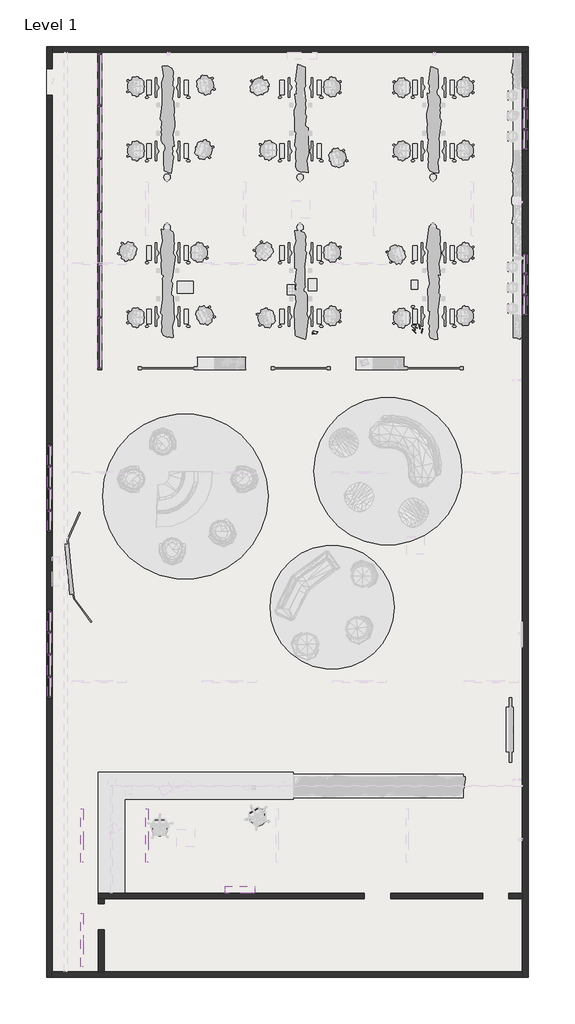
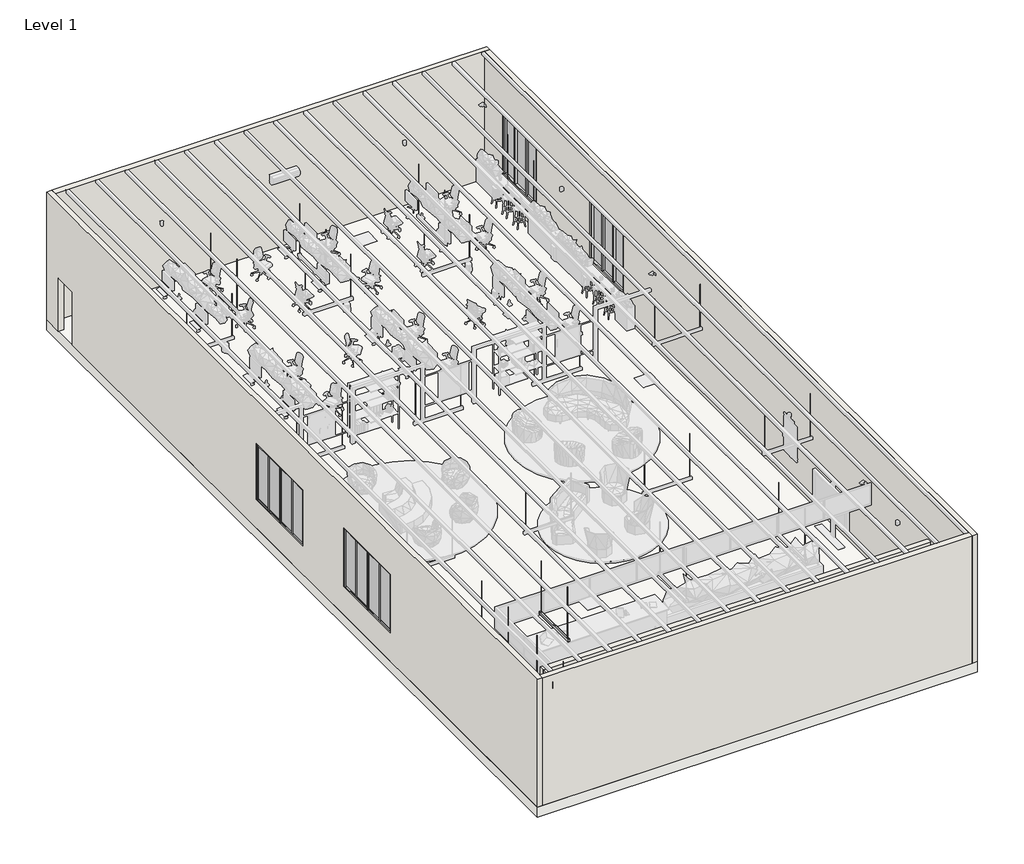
# One storey, part 1 of 6: 65 members, 20 plates, 6 walls, 3 light fixtures, 1 proxy, 1 slab.
"""IFC4 building model written with IfcOpenShell, lengths in millimetres."""

from ifc_helpers import new_model, si_unit, frame, origin, place, context, project, spatial, polyline, outline, extrude, faceted_brep, transform, mapped, element, save
from components import mechanical_equipment_e18acb15, standart_3_6d86efcd, rectangular_mullion_rectangular_mullion_1_0f371214, rectangular_mullion_rectangular_mullion_1_eee6716d, rectangular_mullion_rectangular_mullion_1_d6081a99, rectangular_mullion_rectangular_mullion_1_2bdda2b5, rectangular_mullion_rectangular_mullion_1_a7018825, rectangular_mullion_rectangular_mullion_1_fe8f51e2, rectangular_mullion_rectangular_mullion_1_6a789495, rectangular_mullion_rectangular_mullion_1_acf73c46, rectangular_mullion_rectangular_mullion_1_9f094a73, rectangular_mullion_rectangular_mullion_1_2d569b24, rectangular_mullion_rectangular_mullion_1_004a76be, rectangular_mullion_rectangular_mullion_1_152b513c, rectangular_mullion_rectangular_mullion_1_9e4c6207, rectangular_mullion_rectangular_mullion_1_387f0aec, system_panel_glazed_0b0d6c82, system_panel_glazed_bdd544dc, system_panel_glazed_18db6a70, system_panel_glazed_cfb73191, system_panel_glazed_58499ce8, system_panel_glazed_a8da4757, system_panel_glazed_10de8b75, system_panel_glazed_8957ec08, system_panel_glazed_698d3100, system_panel_glazed_1ffa120b

model = new_model("IFC4")

# Units and contexts
model_context = context("Model", 3, world=origin())
ifc_project = project(units=[si_unit("LENGTHUNIT", "METRE", prefix="MILLI")], contexts=[model_context])

# Site, building, storey
site = spatial("IfcSite", under=ifc_project)
building = spatial("IfcBuilding", under=site)
storey = spatial("IfcBuildingStorey", under=building, Name="Level 1", Elevation=0.0)

# Proxy
placement = place(None, origin())
mechanical_equipment_shape = mechanical_equipment_e18acb15(model_context)
element("IfcBuildingElementProxy", 1, Name="Fujitsu General_ASYG18LFCA : ASYG18LFCA", ObjectType="Fujitsu General_ASYG18LFCA : ASYG18LFCA", at=placement, inside=storey, context=model_context, shape_type="MappedRepresentation", body=[
    mapped(mechanical_equipment_shape, transform((15585.3362243, -12238.6644727, 2800.0), x_axis=(-1.0, 0.0, 0.0), y_axis=(0.0, 0.0, 1.0), z_axis=(0.0, 1.0, 0.0))),
])

# Light fixtures
standart_3_shape = standart_3_6d86efcd(model_context)
element("IfcLightFixture", 2, ObjectType="EAE_STL_DIRECT_INDIRECT_TK_62W : Standart 3", at=placement, inside=storey, context=model_context, shape_type="MappedRepresentation", body=[
    mapped(standart_3_shape, transform((12336.9310635, -9535.2791115, 5028.2842712), x_axis=(0.0, -1.0, 0.0), y_axis=(-1.0, 0.0, 0.0), z_axis=(0.0, 0.0, -1.0))),
])
element("IfcLightFixture", 3, ObjectType="EAE_STL_DIRECT_INDIRECT_TK_62W : Standart 3", at=placement, inside=storey, context=model_context, shape_type="MappedRepresentation", body=[
    mapped(standart_3_shape, transform((10136.9310635, -9535.2791115, 5028.2842712), x_axis=(0.0, -1.0, 0.0), y_axis=(-1.0, 0.0, 0.0), z_axis=(0.0, 0.0, -1.0))),
])
element("IfcLightFixture", 4, ObjectType="EAE_STL_DIRECT_INDIRECT_TK_62W : Standart 3", at=placement, inside=storey, context=model_context, shape_type="MappedRepresentation", body=[
    mapped(standart_3_shape, transform((10136.9310635, -13070.1644448, 5028.2842712), x_axis=(0.0, -1.0, 0.0), y_axis=(-1.0, 0.0, 0.0), z_axis=(0.0, 0.0, -1.0))),
])

# Members
rectangular_mullion_rectangular_mullion_1_shape = rectangular_mullion_rectangular_mullion_1_0f371214(model_context)
element("IfcMember", 5, ObjectType="Rectangular Mullion : Rectangular Mullion 1", at=placement, inside=storey, context=model_context, shape_type="MappedRepresentation", body=[
    mapped(rectangular_mullion_rectangular_mullion_1_shape, transform((10845.3362243, 16205.264194, 0.0), x_axis=(0.0, 1.0, 0.0), y_axis=(1.0, 0.0, 0.0), z_axis=(0.0, 0.0, -1.0))),
])
rectangular_mullion_rectangular_mullion_1_2_shape = rectangular_mullion_rectangular_mullion_1_eee6716d(model_context)
element("IfcMember", 6, ObjectType="Rectangular Mullion : Rectangular Mullion 1", at=placement, inside=storey, context=model_context, shape_type="MappedRepresentation", body=[
    mapped(rectangular_mullion_rectangular_mullion_1_2_shape, transform((10845.3362243, 14415.2641938, 0.0), x_axis=(0.0, 1.0, 0.0), y_axis=(1.0, 0.0, 0.0), z_axis=(0.0, 0.0, -1.0))),
])
element("IfcMember", 7, ObjectType="Rectangular Mullion : Rectangular Mullion 1", at=placement, inside=storey, context=model_context, shape_type="MappedRepresentation", body=[
    mapped(rectangular_mullion_rectangular_mullion_1_2_shape, transform((10845.3362243, 12625.2641939, 0.0), x_axis=(0.0, 1.0, 0.0), y_axis=(1.0, 0.0, 0.0), z_axis=(0.0, 0.0, -1.0))),
])
element("IfcMember", 8, ObjectType="Rectangular Mullion : Rectangular Mullion 1", at=placement, inside=storey, context=model_context, shape_type="MappedRepresentation", body=[
    mapped(rectangular_mullion_rectangular_mullion_1_2_shape, transform((10845.3362243, 10835.264194, 0.0), x_axis=(0.0, 1.0, 0.0), y_axis=(1.0, 0.0, 0.0), z_axis=(0.0, 0.0, -1.0))),
])
element("IfcMember", 9, ObjectType="Rectangular Mullion : Rectangular Mullion 1", at=placement, inside=storey, context=model_context, shape_type="MappedRepresentation", body=[
    mapped(rectangular_mullion_rectangular_mullion_1_2_shape, transform((10845.3362243, 9045.2641941, 0.0), x_axis=(0.0, 1.0, 0.0), y_axis=(1.0, 0.0, 0.0), z_axis=(0.0, 0.0, -1.0))),
])
element("IfcMember", 10, ObjectType="Rectangular Mullion : Rectangular Mullion 1", at=placement, inside=storey, context=model_context, shape_type="MappedRepresentation", body=[
    mapped(rectangular_mullion_rectangular_mullion_1_2_shape, transform((10845.3362243, 7255.2641942, 0.0), x_axis=(0.0, 1.0, 0.0), y_axis=(1.0, 0.0, 0.0), z_axis=(0.0, 0.0, -1.0))),
])
rectangular_mullion_rectangular_mullion_1_3_shape = rectangular_mullion_rectangular_mullion_1_d6081a99(model_context)
element("IfcMember", 11, ObjectType="Rectangular Mullion : Rectangular Mullion 1", at=placement, inside=storey, context=model_context, shape_type="MappedRepresentation", body=[
    mapped(rectangular_mullion_rectangular_mullion_1_3_shape, transform((10845.3362243, 7223.5141942, 2200.0), x_axis=(0.0, 0.0, 1.0), y_axis=(1.0, 0.0, 0.0), z_axis=(0.0, 1.0, 0.0))),
])
element("IfcMember", 12, ObjectType="Rectangular Mullion : Rectangular Mullion 1", at=placement, inside=storey, context=model_context, shape_type="MappedRepresentation", body=[
    mapped(rectangular_mullion_rectangular_mullion_1_3_shape, transform((10845.3362243, 16141.764194, 2200.0), x_axis=(0.0, 0.0, 1.0), y_axis=(1.0, 0.0, 0.0), z_axis=(0.0, 1.0, 0.0))),
])
element("IfcMember", 13, ObjectType="Rectangular Mullion : Rectangular Mullion 1", at=placement, inside=storey, context=model_context, shape_type="MappedRepresentation", body=[
    mapped(rectangular_mullion_rectangular_mullion_1_3_shape, transform((10845.3362243, 14447.0141938, 0.0), x_axis=(0.0, 0.0, -1.0), y_axis=(1.0, 0.0, 0.0), z_axis=(0.0, -1.0, 0.0))),
])
element("IfcMember", 14, ObjectType="Rectangular Mullion : Rectangular Mullion 1", at=placement, inside=storey, context=model_context, shape_type="MappedRepresentation", body=[
    mapped(rectangular_mullion_rectangular_mullion_1_3_shape, transform((10845.3362243, 5528.764194, 0.0), x_axis=(0.0, 0.0, -1.0), y_axis=(1.0, 0.0, 0.0), z_axis=(0.0, -1.0, 0.0))),
])
rectangular_mullion_rectangular_mullion_1_4_shape = rectangular_mullion_rectangular_mullion_1_2bdda2b5(model_context)
element("IfcMember", 15, ObjectType="Rectangular Mullion : Rectangular Mullion 1", at=placement, inside=storey, context=model_context, shape_type="MappedRepresentation", body=[
    mapped(rectangular_mullion_rectangular_mullion_1_4_shape, transform((10845.3362243, 14383.5141938, 2200.0), x_axis=(0.0, 0.0, 1.0), y_axis=(1.0, 0.0, 0.0), z_axis=(0.0, 1.0, 0.0))),
])
element("IfcMember", 16, ObjectType="Rectangular Mullion : Rectangular Mullion 1", at=placement, inside=storey, context=model_context, shape_type="MappedRepresentation", body=[
    mapped(rectangular_mullion_rectangular_mullion_1_4_shape, transform((10845.3362243, 12593.5141939, 2200.0), x_axis=(0.0, 0.0, 1.0), y_axis=(1.0, 0.0, 0.0), z_axis=(0.0, 1.0, 0.0))),
])
element("IfcMember", 17, ObjectType="Rectangular Mullion : Rectangular Mullion 1", at=placement, inside=storey, context=model_context, shape_type="MappedRepresentation", body=[
    mapped(rectangular_mullion_rectangular_mullion_1_4_shape, transform((10845.3362243, 10803.514194, 2200.0), x_axis=(0.0, 0.0, 1.0), y_axis=(1.0, 0.0, 0.0), z_axis=(0.0, 1.0, 0.0))),
])
element("IfcMember", 18, ObjectType="Rectangular Mullion : Rectangular Mullion 1", at=placement, inside=storey, context=model_context, shape_type="MappedRepresentation", body=[
    mapped(rectangular_mullion_rectangular_mullion_1_4_shape, transform((10845.3362243, 9013.5141941, 2200.0), x_axis=(0.0, 0.0, 1.0), y_axis=(1.0, 0.0, 0.0), z_axis=(0.0, 1.0, 0.0))),
])
element("IfcMember", 19, ObjectType="Rectangular Mullion : Rectangular Mullion 1", at=placement, inside=storey, context=model_context, shape_type="MappedRepresentation", body=[
    mapped(rectangular_mullion_rectangular_mullion_1_4_shape, transform((10845.3362243, 12657.0141939, 0.0), x_axis=(0.0, 0.0, -1.0), y_axis=(1.0, 0.0, 0.0), z_axis=(0.0, -1.0, 0.0))),
])
element("IfcMember", 20, ObjectType="Rectangular Mullion : Rectangular Mullion 1", at=placement, inside=storey, context=model_context, shape_type="MappedRepresentation", body=[
    mapped(rectangular_mullion_rectangular_mullion_1_4_shape, transform((10845.3362243, 10867.014194, 0.0), x_axis=(0.0, 0.0, -1.0), y_axis=(1.0, 0.0, 0.0), z_axis=(0.0, -1.0, 0.0))),
])
element("IfcMember", 21, ObjectType="Rectangular Mullion : Rectangular Mullion 1", at=placement, inside=storey, context=model_context, shape_type="MappedRepresentation", body=[
    mapped(rectangular_mullion_rectangular_mullion_1_4_shape, transform((10845.3362243, 9077.0141941, 0.0), x_axis=(0.0, 0.0, -1.0), y_axis=(1.0, 0.0, 0.0), z_axis=(0.0, -1.0, 0.0))),
])
element("IfcMember", 22, ObjectType="Rectangular Mullion : Rectangular Mullion 1", at=placement, inside=storey, context=model_context, shape_type="MappedRepresentation", body=[
    mapped(rectangular_mullion_rectangular_mullion_1_4_shape, transform((10845.3362243, 7287.0141942, 0.0), x_axis=(0.0, 0.0, -1.0), y_axis=(1.0, 0.0, 0.0), z_axis=(0.0, -1.0, 0.0))),
])
element("IfcMember", 23, ObjectType="Rectangular Mullion : Rectangular Mullion 1", at=placement, inside=storey, context=model_context, shape_type="MappedRepresentation", body=[
    mapped(rectangular_mullion_rectangular_mullion_1_shape, transform((10845.3362243, 5465.264194, 2200.0), x_axis=(0.0, -1.0, 0.0), y_axis=(1.0, 0.0, 0.0), z_axis=(0.0, 0.0, 1.0))),
])
rectangular_mullion_rectangular_mullion_1_5_shape = rectangular_mullion_rectangular_mullion_1_a7018825(model_context)
element("IfcMember", 24, ObjectType="Rectangular Mullion : Rectangular Mullion 1", at=placement, inside=storey, context=model_context, shape_type="MappedRepresentation", body=[
    mapped(rectangular_mullion_rectangular_mullion_1_5_shape, transform((25245.3362243, 12872.4213335, 900.0), x_axis=(0.0, -1.0, 0.0), y_axis=(-1.0, 0.0, 0.0), z_axis=(0.0, 0.0, -1.0))),
])
element("IfcMember", 25, ObjectType="Rectangular Mullion : Rectangular Mullion 1", at=placement, inside=storey, context=model_context, shape_type="MappedRepresentation", body=[
    mapped(rectangular_mullion_rectangular_mullion_1_5_shape, transform((25245.3362243, 15022.4213335, 3400.0), x_axis=(0.0, 1.0, 0.0), y_axis=(-1.0, 0.0, 0.0), z_axis=(0.0, 0.0, 1.0))),
])
rectangular_mullion_rectangular_mullion_1_6_shape = rectangular_mullion_rectangular_mullion_1_fe8f51e2(model_context)
element("IfcMember", 26, ObjectType="Rectangular Mullion : Rectangular Mullion 1", at=placement, inside=storey, context=model_context, shape_type="MappedRepresentation", body=[
    mapped(rectangular_mullion_rectangular_mullion_1_6_shape, transform((25245.3362243, 13589.0880003, 900.0), x_axis=(0.0, -1.0, 0.0), y_axis=(-1.0, 0.0, 0.0), z_axis=(0.0, 0.0, -1.0))),
])
element("IfcMember", 27, ObjectType="Rectangular Mullion : Rectangular Mullion 1", at=placement, inside=storey, context=model_context, shape_type="MappedRepresentation", body=[
    mapped(rectangular_mullion_rectangular_mullion_1_6_shape, transform((25245.3362243, 14305.7546667, 900.0), x_axis=(0.0, -1.0, 0.0), y_axis=(-1.0, 0.0, 0.0), z_axis=(0.0, 0.0, -1.0))),
])
rectangular_mullion_rectangular_mullion_1_7_shape = rectangular_mullion_rectangular_mullion_1_6a789495(model_context)
element("IfcMember", 28, ObjectType="Rectangular Mullion : Rectangular Mullion 1", at=placement, inside=storey, context=model_context, shape_type="MappedRepresentation", body=[
    mapped(rectangular_mullion_rectangular_mullion_1_7_shape, transform((25245.3362243, 8020.8380003, 3336.7403044), x_axis=(0.0, 0.0, 1.0), y_axis=(-1.0, 0.0, 0.0), z_axis=(0.0, -1.0, 0.0))),
])
element("IfcMember", 29, ObjectType="Rectangular Mullion : Rectangular Mullion 1", at=placement, inside=storey, context=model_context, shape_type="MappedRepresentation", body=[
    mapped(rectangular_mullion_rectangular_mullion_1_7_shape, transform((25245.3362243, 13620.8380003, 3400.0), x_axis=(0.0, 0.0, 1.0), y_axis=(-1.0, 0.0, 0.0), z_axis=(0.0, -1.0, 0.0))),
])
rectangular_mullion_rectangular_mullion_1_8_shape = rectangular_mullion_rectangular_mullion_1_acf73c46(model_context)
element("IfcMember", 30, ObjectType="Rectangular Mullion : Rectangular Mullion 1", at=placement, inside=storey, context=model_context, shape_type="MappedRepresentation", body=[
    mapped(rectangular_mullion_rectangular_mullion_1_8_shape, transform((25245.3362243, 8737.5046667, 3336.7403044), x_axis=(0.0, 0.0, 1.0), y_axis=(-1.0, 0.0, 0.0), z_axis=(0.0, -1.0, 0.0))),
])
element("IfcMember", 31, ObjectType="Rectangular Mullion : Rectangular Mullion 1", at=placement, inside=storey, context=model_context, shape_type="MappedRepresentation", body=[
    mapped(rectangular_mullion_rectangular_mullion_1_8_shape, transform((25245.3362243, 7335.9213335, 3336.7403044), x_axis=(0.0, 0.0, 1.0), y_axis=(-1.0, 0.0, 0.0), z_axis=(0.0, -1.0, 0.0))),
])
element("IfcMember", 32, ObjectType="Rectangular Mullion : Rectangular Mullion 1", at=placement, inside=storey, context=model_context, shape_type="MappedRepresentation", body=[
    mapped(rectangular_mullion_rectangular_mullion_1_8_shape, transform((25245.3362243, 14337.5046667, 3400.0), x_axis=(0.0, 0.0, 1.0), y_axis=(-1.0, 0.0, 0.0), z_axis=(0.0, -1.0, 0.0))),
])
element("IfcMember", 33, ObjectType="Rectangular Mullion : Rectangular Mullion 1", at=placement, inside=storey, context=model_context, shape_type="MappedRepresentation", body=[
    mapped(rectangular_mullion_rectangular_mullion_1_8_shape, transform((25245.3362243, 12935.9213335, 3400.0), x_axis=(0.0, 0.0, 1.0), y_axis=(-1.0, 0.0, 0.0), z_axis=(0.0, -1.0, 0.0))),
])
element("IfcMember", 34, ObjectType="Rectangular Mullion : Rectangular Mullion 1", at=placement, inside=storey, context=model_context, shape_type="MappedRepresentation", body=[
    mapped(rectangular_mullion_rectangular_mullion_1_8_shape, transform((25245.3362243, 7957.3380003, 900.0), x_axis=(0.0, 0.0, -1.0), y_axis=(-1.0, 0.0, 0.0), z_axis=(0.0, 1.0, 0.0))),
])
element("IfcMember", 35, ObjectType="Rectangular Mullion : Rectangular Mullion 1", at=placement, inside=storey, context=model_context, shape_type="MappedRepresentation", body=[
    mapped(rectangular_mullion_rectangular_mullion_1_8_shape, transform((25245.3362243, 9358.9213335, 900.0), x_axis=(0.0, 0.0, -1.0), y_axis=(-1.0, 0.0, 0.0), z_axis=(0.0, 1.0, 0.0))),
])
element("IfcMember", 36, ObjectType="Rectangular Mullion : Rectangular Mullion 1", at=placement, inside=storey, context=model_context, shape_type="MappedRepresentation", body=[
    mapped(rectangular_mullion_rectangular_mullion_1_8_shape, transform((25245.3362243, 13557.3380003, 900.0), x_axis=(0.0, 0.0, -1.0), y_axis=(-1.0, 0.0, 0.0), z_axis=(0.0, 1.0, 0.0))),
])
element("IfcMember", 37, ObjectType="Rectangular Mullion : Rectangular Mullion 1", at=placement, inside=storey, context=model_context, shape_type="MappedRepresentation", body=[
    mapped(rectangular_mullion_rectangular_mullion_1_8_shape, transform((25245.3362243, 14958.9213335, 900.0), x_axis=(0.0, 0.0, -1.0), y_axis=(-1.0, 0.0, 0.0), z_axis=(0.0, 1.0, 0.0))),
])
element("IfcMember", 38, ObjectType="Rectangular Mullion : Rectangular Mullion 1", at=placement, inside=storey, context=model_context, shape_type="MappedRepresentation", body=[
    mapped(rectangular_mullion_rectangular_mullion_1_7_shape, transform((25245.3362243, 8674.0046667, 900.0), x_axis=(0.0, 0.0, -1.0), y_axis=(-1.0, 0.0, 0.0), z_axis=(0.0, 1.0, 0.0))),
])
element("IfcMember", 39, ObjectType="Rectangular Mullion : Rectangular Mullion 1", at=placement, inside=storey, context=model_context, shape_type="MappedRepresentation", body=[
    mapped(rectangular_mullion_rectangular_mullion_1_7_shape, transform((25245.3362243, 14274.0046667, 900.0), x_axis=(0.0, 0.0, -1.0), y_axis=(-1.0, 0.0, 0.0), z_axis=(0.0, 1.0, 0.0))),
])
rectangular_mullion_rectangular_mullion_1_9_shape = rectangular_mullion_rectangular_mullion_1_9f094a73(model_context)
element("IfcMember", 40, ObjectType="Rectangular Mullion : Rectangular Mullion 1", at=placement, inside=storey, context=model_context, shape_type="MappedRepresentation", body=[
    mapped(rectangular_mullion_rectangular_mullion_1_9_shape, transform((25245.3362243, 8705.7546667, 900.0), x_axis=(0.0, -1.0, 0.0), y_axis=(-1.0, 0.0, 0.0), z_axis=(0.0, 0.0, -1.0))),
])
element("IfcMember", 41, ObjectType="Rectangular Mullion : Rectangular Mullion 1", at=placement, inside=storey, context=model_context, shape_type="MappedRepresentation", body=[
    mapped(rectangular_mullion_rectangular_mullion_1_9_shape, transform((25245.3362243, 7989.0880003, 900.0), x_axis=(0.0, -1.0, 0.0), y_axis=(-1.0, 0.0, 0.0), z_axis=(0.0, 0.0, -1.0))),
])
rectangular_mullion_rectangular_mullion_1_10_shape = rectangular_mullion_rectangular_mullion_1_2d569b24(model_context)
element("IfcMember", 42, ObjectType="Rectangular Mullion : Rectangular Mullion 1", at=placement, inside=storey, context=model_context, shape_type="MappedRepresentation", body=[
    mapped(rectangular_mullion_rectangular_mullion_1_10_shape, transform((25245.3362243, 7272.4213335, 900.0), x_axis=(0.0, -1.0, 0.0), y_axis=(-1.0, 0.0, 0.0), z_axis=(0.0, 0.0, -1.0))),
])
element("IfcMember", 43, ObjectType="Rectangular Mullion : Rectangular Mullion 1", at=placement, inside=storey, context=model_context, shape_type="MappedRepresentation", body=[
    mapped(rectangular_mullion_rectangular_mullion_1_10_shape, transform((25245.3362243, 9422.4213335, 3336.7403044), x_axis=(0.0, 1.0, 0.0), y_axis=(-1.0, 0.0, 0.0), z_axis=(0.0, 0.0, 1.0))),
])
rectangular_mullion_rectangular_mullion_1_11_shape = rectangular_mullion_rectangular_mullion_1_004a76be(model_context)
element("IfcMember", 44, ObjectType="Rectangular Mullion : Rectangular Mullion 1", at=placement, inside=storey, context=model_context, shape_type="MappedRepresentation", body=[
    mapped(rectangular_mullion_rectangular_mullion_1_11_shape, transform((9145.3362243, 747.0141941, 3300.0), x_axis=(0.0, 0.0, 1.0), y_axis=(-1.0, 0.0, 0.0), z_axis=(0.0, -1.0, 0.0))),
])
element("IfcMember", 45, ObjectType="Rectangular Mullion : Rectangular Mullion 1", at=placement, inside=storey, context=model_context, shape_type="MappedRepresentation", body=[
    mapped(rectangular_mullion_rectangular_mullion_1_11_shape, transform((9145.3362243, 1497.014194, 3300.0), x_axis=(0.0, 0.0, 1.0), y_axis=(-1.0, 0.0, 0.0), z_axis=(0.0, -1.0, 0.0))),
])
element("IfcMember", 46, ObjectType="Rectangular Mullion : Rectangular Mullion 1", at=placement, inside=storey, context=model_context, shape_type="MappedRepresentation", body=[
    mapped(rectangular_mullion_rectangular_mullion_1_11_shape, transform((9145.3362243, -4869.6061392, 3400.0), x_axis=(0.0, 0.0, 1.0), y_axis=(-1.0, 0.0, 0.0), z_axis=(0.0, -1.0, 0.0))),
])
element("IfcMember", 47, ObjectType="Rectangular Mullion : Rectangular Mullion 1", at=placement, inside=storey, context=model_context, shape_type="MappedRepresentation", body=[
    mapped(rectangular_mullion_rectangular_mullion_1_11_shape, transform((9145.3362243, -4119.6061394, 3400.0), x_axis=(0.0, 0.0, 1.0), y_axis=(-1.0, 0.0, 0.0), z_axis=(0.0, -1.0, 0.0))),
])
rectangular_mullion_rectangular_mullion_1_12_shape = rectangular_mullion_rectangular_mullion_1_152b513c(model_context)
element("IfcMember", 48, ObjectType="Rectangular Mullion : Rectangular Mullion 1", at=placement, inside=storey, context=model_context, shape_type="MappedRepresentation", body=[
    mapped(rectangular_mullion_rectangular_mullion_1_12_shape, transform((9145.3362243, 2247.0141938, 3300.0), x_axis=(0.0, 0.0, 1.0), y_axis=(-1.0, 0.0, 0.0), z_axis=(0.0, -1.0, 0.0))),
])
element("IfcMember", 49, ObjectType="Rectangular Mullion : Rectangular Mullion 1", at=placement, inside=storey, context=model_context, shape_type="MappedRepresentation", body=[
    mapped(rectangular_mullion_rectangular_mullion_1_12_shape, transform((9145.3362243, 28.764194, 3300.0), x_axis=(0.0, 0.0, 1.0), y_axis=(-1.0, 0.0, 0.0), z_axis=(0.0, -1.0, 0.0))),
])
element("IfcMember", 50, ObjectType="Rectangular Mullion : Rectangular Mullion 1", at=placement, inside=storey, context=model_context, shape_type="MappedRepresentation", body=[
    mapped(rectangular_mullion_rectangular_mullion_1_12_shape, transform((9145.3362243, -3369.6061395, 3400.0), x_axis=(0.0, 0.0, 1.0), y_axis=(-1.0, 0.0, 0.0), z_axis=(0.0, -1.0, 0.0))),
])
element("IfcMember", 51, ObjectType="Rectangular Mullion : Rectangular Mullion 1", at=placement, inside=storey, context=model_context, shape_type="MappedRepresentation", body=[
    mapped(rectangular_mullion_rectangular_mullion_1_12_shape, transform((9145.3362243, -5587.8561394, 3400.0), x_axis=(0.0, 0.0, 1.0), y_axis=(-1.0, 0.0, 0.0), z_axis=(0.0, -1.0, 0.0))),
])
rectangular_mullion_rectangular_mullion_1_13_shape = rectangular_mullion_rectangular_mullion_1_9e4c6207(model_context)
element("IfcMember", 52, ObjectType="Rectangular Mullion : Rectangular Mullion 1", at=placement, inside=storey, context=model_context, shape_type="MappedRepresentation", body=[
    mapped(rectangular_mullion_rectangular_mullion_1_13_shape, transform((9145.3362243, -3401.3561395, 1100.0), x_axis=(0.0, -1.0, 0.0), y_axis=(-1.0, 0.0, 0.0), z_axis=(0.0, 0.0, -1.0))),
])
element("IfcMember", 53, ObjectType="Rectangular Mullion : Rectangular Mullion 1", at=placement, inside=storey, context=model_context, shape_type="MappedRepresentation", body=[
    mapped(rectangular_mullion_rectangular_mullion_1_13_shape, transform((9145.3362243, -4151.3561394, 1100.0), x_axis=(0.0, -1.0, 0.0), y_axis=(-1.0, 0.0, 0.0), z_axis=(0.0, 0.0, -1.0))),
])
element("IfcMember", 54, ObjectType="Rectangular Mullion : Rectangular Mullion 1", at=placement, inside=storey, context=model_context, shape_type="MappedRepresentation", body=[
    mapped(rectangular_mullion_rectangular_mullion_1_13_shape, transform((9145.3362243, -4901.3561392, 1100.0), x_axis=(0.0, -1.0, 0.0), y_axis=(-1.0, 0.0, 0.0), z_axis=(0.0, 0.0, -1.0))),
])
element("IfcMember", 55, ObjectType="Rectangular Mullion : Rectangular Mullion 1", at=placement, inside=storey, context=model_context, shape_type="MappedRepresentation", body=[
    mapped(rectangular_mullion_rectangular_mullion_1_12_shape, transform((9145.3362243, 683.5141941, 1100.0), x_axis=(0.0, 0.0, -1.0), y_axis=(-1.0, 0.0, 0.0), z_axis=(0.0, 1.0, 0.0))),
])
element("IfcMember", 56, ObjectType="Rectangular Mullion : Rectangular Mullion 1", at=placement, inside=storey, context=model_context, shape_type="MappedRepresentation", body=[
    mapped(rectangular_mullion_rectangular_mullion_1_12_shape, transform((9145.3362243, 2901.764194, 1100.0), x_axis=(0.0, 0.0, -1.0), y_axis=(-1.0, 0.0, 0.0), z_axis=(0.0, 1.0, 0.0))),
])
element("IfcMember", 57, ObjectType="Rectangular Mullion : Rectangular Mullion 1", at=placement, inside=storey, context=model_context, shape_type="MappedRepresentation", body=[
    mapped(rectangular_mullion_rectangular_mullion_1_12_shape, transform((9145.3362243, -4933.1061392, 1100.0), x_axis=(0.0, 0.0, -1.0), y_axis=(-1.0, 0.0, 0.0), z_axis=(0.0, 1.0, 0.0))),
])
element("IfcMember", 58, ObjectType="Rectangular Mullion : Rectangular Mullion 1", at=placement, inside=storey, context=model_context, shape_type="MappedRepresentation", body=[
    mapped(rectangular_mullion_rectangular_mullion_1_12_shape, transform((9145.3362243, -2714.8561394, 1100.0), x_axis=(0.0, 0.0, -1.0), y_axis=(-1.0, 0.0, 0.0), z_axis=(0.0, 1.0, 0.0))),
])
element("IfcMember", 59, ObjectType="Rectangular Mullion : Rectangular Mullion 1", at=placement, inside=storey, context=model_context, shape_type="MappedRepresentation", body=[
    mapped(rectangular_mullion_rectangular_mullion_1_11_shape, transform((9145.3362243, 1433.514194, 1100.0), x_axis=(0.0, 0.0, -1.0), y_axis=(-1.0, 0.0, 0.0), z_axis=(0.0, 1.0, 0.0))),
])
element("IfcMember", 60, ObjectType="Rectangular Mullion : Rectangular Mullion 1", at=placement, inside=storey, context=model_context, shape_type="MappedRepresentation", body=[
    mapped(rectangular_mullion_rectangular_mullion_1_11_shape, transform((9145.3362243, 2183.5141938, 1100.0), x_axis=(0.0, 0.0, -1.0), y_axis=(-1.0, 0.0, 0.0), z_axis=(0.0, 1.0, 0.0))),
])
element("IfcMember", 61, ObjectType="Rectangular Mullion : Rectangular Mullion 1", at=placement, inside=storey, context=model_context, shape_type="MappedRepresentation", body=[
    mapped(rectangular_mullion_rectangular_mullion_1_11_shape, transform((9145.3362243, -4183.1061394, 1100.0), x_axis=(0.0, 0.0, -1.0), y_axis=(-1.0, 0.0, 0.0), z_axis=(0.0, 1.0, 0.0))),
])
element("IfcMember", 62, ObjectType="Rectangular Mullion : Rectangular Mullion 1", at=placement, inside=storey, context=model_context, shape_type="MappedRepresentation", body=[
    mapped(rectangular_mullion_rectangular_mullion_1_11_shape, transform((9145.3362243, -3433.1061395, 1100.0), x_axis=(0.0, 0.0, -1.0), y_axis=(-1.0, 0.0, 0.0), z_axis=(0.0, 1.0, 0.0))),
])
rectangular_mullion_rectangular_mullion_1_14_shape = rectangular_mullion_rectangular_mullion_1_387f0aec(model_context)
element("IfcMember", 63, ObjectType="Rectangular Mullion : Rectangular Mullion 1", at=placement, inside=storey, context=model_context, shape_type="MappedRepresentation", body=[
    mapped(rectangular_mullion_rectangular_mullion_1_14_shape, transform((9145.3362243, -2651.3561394, 3400.0), x_axis=(0.0, 1.0, 0.0), y_axis=(-1.0, 0.0, 0.0), z_axis=(0.0, 0.0, 1.0))),
])
element("IfcMember", 64, ObjectType="Rectangular Mullion : Rectangular Mullion 1", at=placement, inside=storey, context=model_context, shape_type="MappedRepresentation", body=[
    mapped(rectangular_mullion_rectangular_mullion_1_14_shape, transform((9145.3362243, -5651.3561394, 1100.0), x_axis=(0.0, -1.0, 0.0), y_axis=(-1.0, 0.0, 0.0), z_axis=(0.0, 0.0, -1.0))),
])
element("IfcMember", 65, ObjectType="Rectangular Mullion : Rectangular Mullion 1", at=placement, inside=storey, context=model_context, shape_type="MappedRepresentation", body=[
    mapped(rectangular_mullion_rectangular_mullion_1_2_shape, transform((9145.3362243, 715.2641941, 1100.0), x_axis=(0.0, -1.0, 0.0), y_axis=(-1.0, 0.0, 0.0), z_axis=(0.0, 0.0, -1.0))),
])
element("IfcMember", 66, ObjectType="Rectangular Mullion : Rectangular Mullion 1", at=placement, inside=storey, context=model_context, shape_type="MappedRepresentation", body=[
    mapped(rectangular_mullion_rectangular_mullion_1_2_shape, transform((9145.3362243, 1465.264194, 1100.0), x_axis=(0.0, -1.0, 0.0), y_axis=(-1.0, 0.0, 0.0), z_axis=(0.0, 0.0, -1.0))),
])
element("IfcMember", 67, ObjectType="Rectangular Mullion : Rectangular Mullion 1", at=placement, inside=storey, context=model_context, shape_type="MappedRepresentation", body=[
    mapped(rectangular_mullion_rectangular_mullion_1_2_shape, transform((9145.3362243, 2215.2641938, 1100.0), x_axis=(0.0, -1.0, 0.0), y_axis=(-1.0, 0.0, 0.0), z_axis=(0.0, 0.0, -1.0))),
])
element("IfcMember", 68, ObjectType="Rectangular Mullion : Rectangular Mullion 1", at=placement, inside=storey, context=model_context, shape_type="MappedRepresentation", body=[
    mapped(rectangular_mullion_rectangular_mullion_1_shape, transform((9145.3362243, 2965.264194, 3300.0), x_axis=(0.0, 1.0, 0.0), y_axis=(-1.0, 0.0, 0.0), z_axis=(0.0, 0.0, 1.0))),
])
element("IfcMember", 69, ObjectType="Rectangular Mullion : Rectangular Mullion 1", at=placement, inside=storey, context=model_context, shape_type="MappedRepresentation", body=[
    mapped(rectangular_mullion_rectangular_mullion_1_shape, transform((9145.3362243, -34.735806, 1100.0), x_axis=(0.0, -1.0, 0.0), y_axis=(-1.0, 0.0, 0.0), z_axis=(0.0, 0.0, -1.0))),
])

# Plates
system_panel_glazed_shape = system_panel_glazed_0b0d6c82(model_context)
element("IfcPlate", 70, ObjectType="System Panel : Glazed", at=placement, inside=storey, context=model_context, shape_type="MappedRepresentation", body=[
    mapped(system_panel_glazed_shape, transform((10845.3362243, 6376.1391941, 63.5), x_axis=(0.0, 1.0, 0.0), y_axis=(-1.0, 0.0, 0.0), z_axis=(0.0, 0.0, 1.0))),
])
element("IfcPlate", 71, ObjectType="System Panel : Glazed", at=placement, inside=storey, context=model_context, shape_type="MappedRepresentation", body=[
    mapped(system_panel_glazed_shape, transform((10845.3362243, 15294.3891939, 63.5), x_axis=(0.0, 1.0, 0.0), y_axis=(-1.0, 0.0, 0.0), z_axis=(0.0, 0.0, 1.0))),
])
system_panel_glazed_2_shape = system_panel_glazed_bdd544dc(model_context)
element("IfcPlate", 72, ObjectType="System Panel : Glazed", at=placement, inside=storey, context=model_context, shape_type="MappedRepresentation", body=[
    mapped(system_panel_glazed_2_shape, transform((10845.3362243, 8150.2641941, 63.5), x_axis=(0.0, 1.0, 0.0), y_axis=(-1.0, 0.0, 0.0), z_axis=(0.0, 0.0, 1.0))),
])
element("IfcPlate", 73, ObjectType="System Panel : Glazed", at=placement, inside=storey, context=model_context, shape_type="MappedRepresentation", body=[
    mapped(system_panel_glazed_2_shape, transform((10845.3362243, 9940.264194, 63.5), x_axis=(0.0, 1.0, 0.0), y_axis=(-1.0, 0.0, 0.0), z_axis=(0.0, 0.0, 1.0))),
])
element("IfcPlate", 74, ObjectType="System Panel : Glazed", at=placement, inside=storey, context=model_context, shape_type="MappedRepresentation", body=[
    mapped(system_panel_glazed_2_shape, transform((10845.3362243, 11730.2641939, 63.5), x_axis=(0.0, 1.0, 0.0), y_axis=(-1.0, 0.0, 0.0), z_axis=(0.0, 0.0, 1.0))),
])
element("IfcPlate", 75, ObjectType="System Panel : Glazed", at=placement, inside=storey, context=model_context, shape_type="MappedRepresentation", body=[
    mapped(system_panel_glazed_2_shape, transform((10845.3362243, 13520.2641938, 63.5), x_axis=(0.0, 1.0, 0.0), y_axis=(-1.0, 0.0, 0.0), z_axis=(0.0, 0.0, 1.0))),
])
system_panel_glazed_3_shape = system_panel_glazed_18db6a70(model_context)
element("IfcPlate", 76, ObjectType="System Panel : Glazed", at=placement, inside=storey, context=model_context, shape_type="MappedRepresentation", body=[
    mapped(system_panel_glazed_3_shape, transform((25245.3362243, 14648.2130001, 963.5), x_axis=(0.0, -1.0, 0.0), y_axis=(1.0, 0.0, 0.0), z_axis=(0.0, 0.0, 1.0))),
])
element("IfcPlate", 77, ObjectType="System Panel : Glazed", at=placement, inside=storey, context=model_context, shape_type="MappedRepresentation", body=[
    mapped(system_panel_glazed_3_shape, transform((25245.3362243, 13246.6296669, 963.5), x_axis=(0.0, -1.0, 0.0), y_axis=(1.0, 0.0, 0.0), z_axis=(0.0, 0.0, 1.0))),
])
system_panel_glazed_4_shape = system_panel_glazed_cfb73191(model_context)
element("IfcPlate", 78, ObjectType="System Panel : Glazed", at=placement, inside=storey, context=model_context, shape_type="MappedRepresentation", body=[
    mapped(system_panel_glazed_4_shape, transform((25245.3362243, 13947.4213335, 963.5), x_axis=(0.0, -1.0, 0.0), y_axis=(1.0, 0.0, 0.0), z_axis=(0.0, 0.0, 1.0))),
])
system_panel_glazed_5_shape = system_panel_glazed_58499ce8(model_context)
element("IfcPlate", 79, ObjectType="System Panel : Glazed", at=placement, inside=storey, context=model_context, shape_type="MappedRepresentation", body=[
    mapped(system_panel_glazed_5_shape, transform((25245.3362243, 9048.2130001, 963.5), x_axis=(0.0, -1.0, 0.0), y_axis=(1.0, 0.0, 0.0), z_axis=(0.0, 0.0, 1.0))),
])
element("IfcPlate", 80, ObjectType="System Panel : Glazed", at=placement, inside=storey, context=model_context, shape_type="MappedRepresentation", body=[
    mapped(system_panel_glazed_5_shape, transform((25245.3362243, 7646.6296669, 963.5), x_axis=(0.0, -1.0, 0.0), y_axis=(1.0, 0.0, 0.0), z_axis=(0.0, 0.0, 1.0))),
])
system_panel_glazed_6_shape = system_panel_glazed_a8da4757(model_context)
element("IfcPlate", 81, ObjectType="System Panel : Glazed", at=placement, inside=storey, context=model_context, shape_type="MappedRepresentation", body=[
    mapped(system_panel_glazed_6_shape, transform((25245.3362243, 8347.4213335, 963.5), x_axis=(0.0, -1.0, 0.0), y_axis=(1.0, 0.0, 0.0), z_axis=(0.0, 0.0, 1.0))),
])
system_panel_glazed_7_shape = system_panel_glazed_10de8b75(model_context)
element("IfcPlate", 82, ObjectType="System Panel : Glazed", at=placement, inside=storey, context=model_context, shape_type="MappedRepresentation", body=[
    mapped(system_panel_glazed_7_shape, transform((9145.3362243, -3042.2311394, 1163.5), x_axis=(0.0, -1.0, 0.0), y_axis=(1.0, 0.0, 0.0), z_axis=(0.0, 0.0, 1.0))),
])
element("IfcPlate", 83, ObjectType="System Panel : Glazed", at=placement, inside=storey, context=model_context, shape_type="MappedRepresentation", body=[
    mapped(system_panel_glazed_7_shape, transform((9145.3362243, -5260.4811393, 1163.5), x_axis=(0.0, -1.0, 0.0), y_axis=(1.0, 0.0, 0.0), z_axis=(0.0, 0.0, 1.0))),
])
system_panel_glazed_8_shape = system_panel_glazed_8957ec08(model_context)
element("IfcPlate", 84, ObjectType="System Panel : Glazed", at=placement, inside=storey, context=model_context, shape_type="MappedRepresentation", body=[
    mapped(system_panel_glazed_8_shape, transform((9145.3362243, -3776.3561394, 1163.5), x_axis=(0.0, -1.0, 0.0), y_axis=(1.0, 0.0, 0.0), z_axis=(0.0, 0.0, 1.0))),
])
element("IfcPlate", 85, ObjectType="System Panel : Glazed", at=placement, inside=storey, context=model_context, shape_type="MappedRepresentation", body=[
    mapped(system_panel_glazed_8_shape, transform((9145.3362243, -4526.3561393, 1163.5), x_axis=(0.0, -1.0, 0.0), y_axis=(1.0, 0.0, 0.0), z_axis=(0.0, 0.0, 1.0))),
])
system_panel_glazed_9_shape = system_panel_glazed_698d3100(model_context)
element("IfcPlate", 86, ObjectType="System Panel : Glazed", at=placement, inside=storey, context=model_context, shape_type="MappedRepresentation", body=[
    mapped(system_panel_glazed_9_shape, transform((9145.3362243, 2574.3891939, 1163.5), x_axis=(0.0, -1.0, 0.0), y_axis=(1.0, 0.0, 0.0), z_axis=(0.0, 0.0, 1.0))),
])
element("IfcPlate", 87, ObjectType="System Panel : Glazed", at=placement, inside=storey, context=model_context, shape_type="MappedRepresentation", body=[
    mapped(system_panel_glazed_9_shape, transform((9145.3362243, 356.139194, 1163.5), x_axis=(0.0, -1.0, 0.0), y_axis=(1.0, 0.0, 0.0), z_axis=(0.0, 0.0, 1.0))),
])
system_panel_glazed_10_shape = system_panel_glazed_1ffa120b(model_context)
element("IfcPlate", 88, ObjectType="System Panel : Glazed", at=placement, inside=storey, context=model_context, shape_type="MappedRepresentation", body=[
    mapped(system_panel_glazed_10_shape, transform((9145.3362243, 1840.2641939, 1163.5), x_axis=(0.0, -1.0, 0.0), y_axis=(1.0, 0.0, 0.0), z_axis=(0.0, 0.0, 1.0))),
])
element("IfcPlate", 89, ObjectType="System Panel : Glazed", at=placement, inside=storey, context=model_context, shape_type="MappedRepresentation", body=[
    mapped(system_panel_glazed_10_shape, transform((9145.3362243, 1090.264194, 1163.5), x_axis=(0.0, -1.0, 0.0), y_axis=(1.0, 0.0, 0.0), z_axis=(0.0, 0.0, 1.0))),
])

# Slab
element("IfcSlab", 90, ObjectType="Floor 40 cm", at=placement, inside=storey, context=model_context, shape_type="SweptSolid", body=[
    extrude(outline(polyline([(9045.3362243, 16405.264194), (25345.3362243, 16405.264194), (25345.3362243, -15094.735806), (9045.3362243, -15094.735806), (9045.3362243, 16405.264194)])), frame((0.0, 0.0, -400.0), z_axis=(0.0, 0.0, 1.0), x_axis=(1.0, 0.0, 0.0)), (0.0, 0.0, 1.0), 400.0),
])

# Walls
element("IfcWall", 91, ObjectType="Generic - 20 cm", at=placement, inside=storey, context=model_context, shape_type="Brep", body=[
    faceted_brep([(25145.3362243, 16205.264194, 0.0), (25145.3362243, -12238.6644727, 0.0), (25145.3362243, -12438.6644727, 0.0), (25145.3362243, -14894.735806, 0.0), (25145.3362243, -15094.735806, 0.0), (25145.3362243, -15094.735806, 5000.0), (25145.3362243, -14894.735806, 5000.0), (25145.3362243, 16205.264194, 5000.0), (25145.3362243, 15022.4213335, 900.0), (25145.3362243, 15022.4213335, 3400.0), (25145.3362243, 12872.4213335, 3400.0), (25145.3362243, 12872.4213335, 900.0), (25145.3362243, 9422.4213335, 900.0), (25145.3362243, 9422.4213335, 3336.7403044), (25145.3362243, 7272.4213335, 3336.7403044), (25145.3362243, 7272.4213335, 900.0), (25345.3362243, -15094.735806, 0.0), (25345.3362243, 16205.264194, 0.0), (25345.3362243, 16205.264194, 5000.0), (25345.3362243, -15094.735806, 5000.0), (25345.3362243, 15022.4213335, 3400.0), (25345.3362243, 15022.4213335, 900.0), (25345.3362243, 12872.4213335, 900.0), (25345.3362243, 12872.4213335, 3400.0), (25345.3362243, 9422.4213335, 3336.7403044), (25345.3362243, 9422.4213335, 900.0), (25345.3362243, 7272.4213335, 900.0), (25345.3362243, 7272.4213335, 3336.7403044)], [[[0, 1, 2, 3, 4, 5, 6, 7], [8, 9, 10, 11], [12, 13, 14, 15]], [[16, 17, 18, 19], [20, 21, 22, 23], [24, 25, 26, 27]], [[4, 3, 2, 1, 0, 17, 16]], [[0, 7, 18, 17]], [[8, 21, 20, 9]], [[9, 20, 23, 10]], [[10, 23, 22, 11]], [[21, 8, 11, 22]], [[12, 25, 24, 13]], [[13, 24, 27, 14]], [[26, 15, 14, 27]], [[25, 12, 15, 26]], [[5, 4, 16, 19]], [[7, 6, 5, 19, 18]]]),
])
element("IfcWall", 92, ObjectType="Generic - 20 cm", at=placement, inside=storey, context=model_context, shape_type="Brep", body=[
    faceted_brep([(25345.3362243, 16405.264194, 0.0), (9245.3362243, 16405.264194, 0.0), (9245.3362243, 16405.264194, 5000.0), (25345.3362243, 16405.264194, 5000.0), (25345.3362243, 16205.264194, 0.0), (25345.3362243, 16205.264194, 5000.0), (25145.3362243, 16205.264194, 5000.0), (9245.3362243, 16205.264194, 5000.0), (9245.3362243, 16205.264194, 0.0), (25145.3362243, 16205.264194, 0.0)], [[[0, 1, 2, 3]], [[4, 5, 6, 7, 8, 9]], [[1, 0, 4, 9, 8]], [[0, 3, 5, 4]], [[2, 1, 8, 7]], [[3, 2, 7, 6, 5]]]),
])
element("IfcWall", 93, ObjectType="Generic - 20 cm", at=placement, inside=storey, context=model_context, shape_type="Brep", body=[
    faceted_brep([(9045.3362243, 16405.264194, 5000.0), (9045.3362243, 16405.264194, 0.0), (9045.3362243, 15650.264194, 0.0), (9045.3362243, 15650.264194, 2090.0), (9045.3362243, 14760.264194, 2090.0), (9045.3362243, 14760.264194, 0.0), (9045.3362243, -15094.735806, 0.0), (9045.3362243, -15094.735806, 5000.0), (9045.3362243, 2965.264194, 1100.0), (9045.3362243, 2965.264194, 3300.0), (9045.3362243, -34.735806, 3300.0), (9045.3362243, -34.735806, 1100.0), (9045.3362243, -2651.3561394, 1100.0), (9045.3362243, -2651.3561394, 3400.0), (9045.3362243, -5651.3561394, 3400.0), (9045.3362243, -5651.3561394, 1100.0), (9245.3362243, 16405.264194, 0.0), (9245.3362243, 16405.264194, 5000.0), (9245.3362243, 16205.264194, 5000.0), (9245.3362243, -14894.735806, 5000.0), (9245.3362243, -15094.735806, 5000.0), (9245.3362243, -15094.735806, 0.0), (9245.3362243, -14894.735806, 0.0), (9245.3362243, 14760.264194, 0.0), (9245.3362243, 14760.264194, 2090.0), (9245.3362243, 15650.264194, 2090.0), (9245.3362243, 15650.264194, 0.0), (9245.3362243, 16205.264194, 0.0), (9245.3362243, 2965.264194, 3300.0), (9245.3362243, 2965.264194, 1100.0), (9245.3362243, -34.735806, 1100.0), (9245.3362243, -34.735806, 3300.0), (9245.3362243, -2651.3561394, 3400.0), (9245.3362243, -2651.3561394, 1100.0), (9245.3362243, -5651.3561394, 1100.0), (9245.3362243, -5651.3561394, 3400.0)], [[[0, 1, 2, 3, 4, 5, 6, 7], [8, 9, 10, 11], [12, 13, 14, 15]], [[16, 17, 18, 19, 20, 21, 22, 23, 24, 25, 26, 27], [28, 29, 30, 31], [32, 33, 34, 35]], [[1, 16, 27, 26, 2]], [[21, 6, 5, 23, 22]], [[1, 0, 17, 16]], [[7, 6, 21, 20]], [[0, 7, 20, 19, 18, 17]], [[4, 24, 23, 5]], [[24, 4, 3, 25]], [[25, 3, 2, 26]], [[8, 29, 28, 9]], [[9, 28, 31, 10]], [[10, 31, 30, 11]], [[29, 8, 11, 30]], [[12, 33, 32, 13]], [[13, 32, 35, 14]], [[14, 35, 34, 15]], [[33, 12, 15, 34]]]),
])
element("IfcWall", 94, ObjectType="Generic - 20 cm", at=placement, inside=storey, context=model_context, shape_type="Brep", body=[
    faceted_brep([(25145.3362243, -12438.6644727, 3150.0), (10995.3362243, -12438.6644727, 3150.0), (10795.3362243, -12438.6644727, 3150.0), (10795.3362243, -12438.6644727, 0.0), (10995.3362243, -12438.6644727, 0.0), (19800.3362243, -12438.6644727, 0.0), (19800.3362243, -12438.6644727, 2090.0), (20690.3362243, -12438.6644727, 2090.0), (20690.3362243, -12438.6644727, 0.0), (23800.3362243, -12438.6644727, 0.0), (23800.3362243, -12438.6644727, 2090.0), (24690.3362243, -12438.6644727, 2090.0), (24690.3362243, -12438.6644727, 0.0), (25145.3362243, -12438.6644727, 0.0), (10795.3362243, -12238.6644727, 3150.0), (25145.3362243, -12238.6644727, 3150.0), (25145.3362243, -12238.6644727, 0.0), (24690.3362243, -12238.6644727, 0.0), (24690.3362243, -12238.6644727, 2090.0), (23800.3362243, -12238.6644727, 2090.0), (23800.3362243, -12238.6644727, 0.0), (20690.3362243, -12238.6644727, 0.0), (20690.3362243, -12238.6644727, 2090.0), (19800.3362243, -12238.6644727, 2090.0), (19800.3362243, -12238.6644727, 0.0), (10795.3362243, -12238.6644727, 0.0)], [[[0, 1, 2, 3, 4, 5, 6, 7, 8, 9, 10, 11, 12, 13]], [[14, 15, 16, 17, 18, 19, 20, 21, 22, 23, 24, 25]], [[3, 25, 24, 5, 4]], [[16, 13, 12, 17]], [[20, 9, 8, 21]], [[2, 1, 0, 15, 14]], [[3, 2, 14, 25]], [[0, 13, 16, 15]], [[19, 10, 9, 20]], [[10, 19, 18, 11]], [[11, 18, 17, 12]], [[23, 6, 5, 24]], [[6, 23, 22, 7]], [[7, 22, 21, 8]]]),
])
element("IfcWall", 95, ObjectType="Generic - 20 cm", at=placement, inside=storey, context=model_context, shape_type="Brep", body=[
    faceted_brep([(9245.3362243, -15094.735806, 0.0), (25145.3362243, -15094.735806, 0.0), (25145.3362243, -15094.735806, 5000.0), (9245.3362243, -15094.735806, 5000.0), (9245.3362243, -14894.735806, 0.0), (9245.3362243, -14894.735806, 5000.0), (25145.3362243, -14894.735806, 5000.0), (25145.3362243, -14894.735806, 0.0), (10995.3362243, -14894.735806, 0.0), (10795.3362243, -14894.735806, 0.0)], [[[0, 1, 2, 3]], [[4, 5, 6, 7, 8, 9]], [[1, 0, 4, 9, 8, 7]], [[0, 3, 5, 4]], [[2, 1, 7, 6]], [[3, 2, 6, 5]]]),
])
element("IfcWall", 96, ObjectType="Generic - 20 cm", at=placement, inside=storey, context=model_context, shape_type="SweptSolid", body=[
    extrude(outline(polyline([(-14894.735806, 3150.0), (-12438.6644727, 3150.0), (-12438.6644727, 0.0), (-12593.6644727, 0.0), (-12593.6644727, 2090.0), (-13483.6644727, 2090.0), (-13483.6644727, 0.0), (-14894.735806, 0.0), (-14894.735806, 3150.0)])), frame((10795.3362243, 0.0, 0.0), z_axis=(1.0, 0.0, 0.0), x_axis=(0.0, 1.0, 0.0)), (0.0, 0.0, 1.0), 200.0),
])

save(model, "model.ifc")
